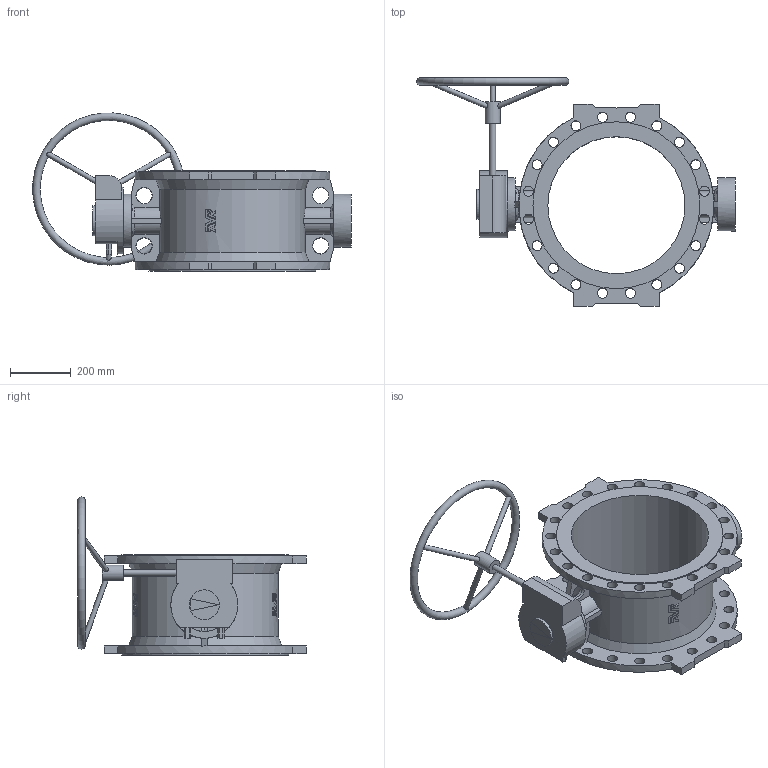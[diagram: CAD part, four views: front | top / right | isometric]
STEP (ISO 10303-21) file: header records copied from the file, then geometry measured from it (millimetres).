
FILE_DESCRIPTION (( 'STEP AP203' ), '1' );
FILE_NAME ('O_756_1_DN450_1XX00_AA0_step.step', '2016-03-04T11:47:06', ( 'Windows User' ), ( 'AVK' ), 'SwSTEP 2.0', 'SolidWorks 2012', '' );
FILE_SCHEMA (( 'CONFIG_CONTROL_DESIGN' ));
Length unit declared in the file: millimetre
Products named in the file (1): O_756_1_DN450_1XX00_AA0_step
Bounding box: 1045.49 x 750.97 x 519 mm (x, y, z)
Volume: 23787932.1 mm3; surface area: 2178125 mm2
Topology: 1 solids, 1 shells, 357 faces, 1050 edges, 712 vertices
Faces by surface type: plane 172, cylinder 86, bspline 78, cone 20, torus 1
Full cylindrical faces by diameter (mm): 16 x3, 20 x1, 33 x40, 50 x1, 98 x1, 175 x2, 220 x1, 450 x1, 548 x2
Entity records: 16362 total; most frequent: CARTESIAN_POINT 7688, ORIENTED_EDGE 1888, DIRECTION 1433, EDGE_CURVE 944, VERTEX_POINT 667, EDGE_LOOP 529, AXIS2_PLACEMENT_3D 480, LINE 473
